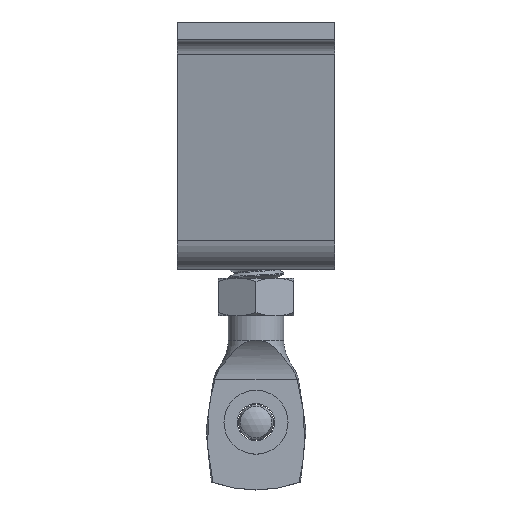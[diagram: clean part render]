
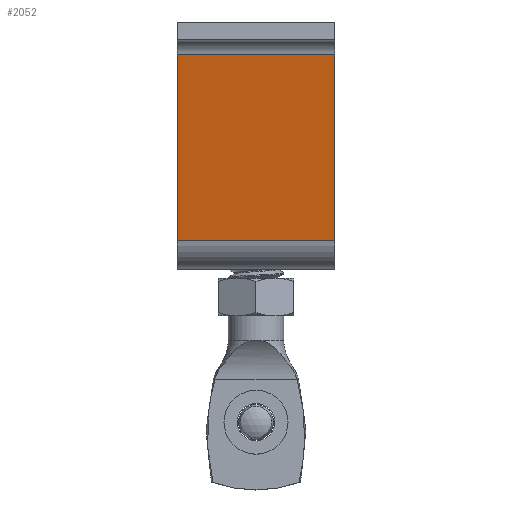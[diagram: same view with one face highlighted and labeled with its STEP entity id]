
A CAD part, top view. The second image highlights one B-rep face of the part: STEP entity #2052.
In plain terms, the highlighted planar face has unit normal (0, -0.174, 0.985).
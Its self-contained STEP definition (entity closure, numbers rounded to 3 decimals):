
#151=PLANE('',#2393);
#315=FACE_OUTER_BOUND('',#446,.T.);
#446=EDGE_LOOP('',(#1821,#1822,#1823,#1824));
#694=LINE('',#8792,#802);
#702=LINE('',#8813,#810);
#705=LINE('',#8819,#813);
#706=LINE('',#8820,#814);
#802=VECTOR('',#2831,10.);
#810=VECTOR('',#2859,4.32);
#813=VECTOR('',#2864,4.32);
#814=VECTOR('',#2865,10.);
#993=VERTEX_POINT('',#8789);
#994=VERTEX_POINT('',#8791);
#997=VERTEX_POINT('',#8812);
#999=VERTEX_POINT('',#8818);
#1262=EDGE_CURVE('',#994,#993,#694,.T.);
#1273=EDGE_CURVE('',#994,#997,#702,.T.);
#1276=EDGE_CURVE('',#993,#999,#705,.T.);
#1277=EDGE_CURVE('',#999,#997,#706,.T.);
#1821=ORIENTED_EDGE('',*,*,#1262,.T.);
#1822=ORIENTED_EDGE('',*,*,#1276,.T.);
#1823=ORIENTED_EDGE('',*,*,#1277,.T.);
#1824=ORIENTED_EDGE('',*,*,#1273,.F.);
#2052=ADVANCED_FACE('',(#315),#151,.F.);
#2393=AXIS2_PLACEMENT_3D('',#8817,#2862,#2863);
#2831=DIRECTION('',(1.,0.,0.));
#2859=DIRECTION('',(0.,0.985,0.174));
#2862=DIRECTION('center_axis',(0.,0.174,-0.985));
#2863=DIRECTION('ref_axis',(0.,-0.985,-0.174));
#2864=DIRECTION('',(0.,0.985,0.174));
#2865=DIRECTION('',(-1.,0.,0.));
#8789=CARTESIAN_POINT('',(-9.705,18.458,62.043));
#8791=CARTESIAN_POINT('',(-36.705,18.458,62.043));
#8792=CARTESIAN_POINT('',(-16.455,18.458,62.043));
#8812=CARTESIAN_POINT('',(-36.705,50.413,67.677));
#8813=CARTESIAN_POINT('',(-36.705,63.779,70.034));
#8817=CARTESIAN_POINT('Origin',(-23.205,34.927,64.946));
#8818=CARTESIAN_POINT('',(-9.705,50.413,67.677));
#8819=CARTESIAN_POINT('',(-9.705,63.779,70.034));
#8820=CARTESIAN_POINT('',(-23.205,50.413,67.677));
